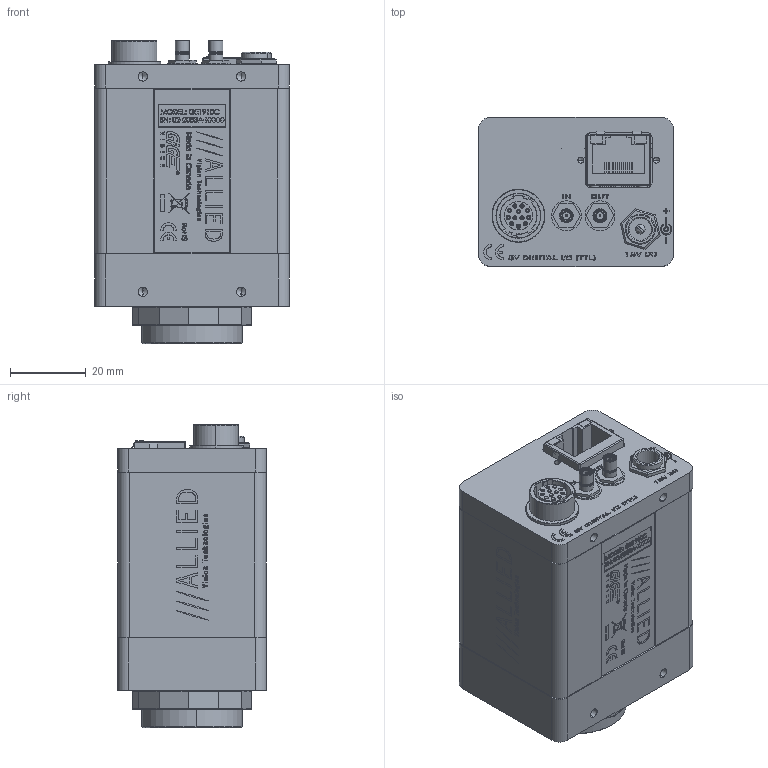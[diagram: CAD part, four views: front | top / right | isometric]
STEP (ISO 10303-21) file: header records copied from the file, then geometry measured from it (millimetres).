
FILE_DESCRIPTION (( 'STEP AP214' ), '1' );
FILE_NAME ('GE1910C.STEP', '2013-07-31T21:46:51', ( '' ), ( '' ), 'SwSTEP 2.0', 'SolidWorks 2013', '' );
FILE_SCHEMA (( 'AUTOMOTIVE_DESIGN' ));
Length unit declared in the file: millimetre
Products named in the file (37): 260014-SWITCHCRAFT PC712A NUT; 110085A-GE1050 FRONT PLATE; 140015-screw pan head phillips 4-40 x 0.1875; 110003AC-CV CMOUNT RING; 110036B GE COVER EXTRUDED SHORT WITH LOGO_Finished; 200031B-A GE INTERFACE PCB ASSY; 100137A - GE CAMERA BACK ASSEMBLY - for GE KODAK 1M2M; 260029 BELFUSE 0826-1C1T-23; 100051B - GE BACKPLATE ASSY; 740031B-GE SERIES LABEL; 260010-HIROSE HR10A-10R-12SB; 140007-screw socket head cap #4-40x2; 260010-HIROSE HR10A-10R-12SB NUT; 140008-washer spring lock #4; 260010-HIROSE HR10A-10R-12SB WASHER; 260014-SWITCHCRAFT PC712A; 740088A-GE1910C LABEL PRINT; GE1910C; 140034-SWITCHCRAFT P10149 WITH WIRE; 100157A-GE1910C FRONT ASSY; 140034-SWITCHCRAFT P10149; 110031A-B EC-CCD LOCKING RING; 270006-JUMPER WIRE 18MM LONG; 100097A-IR FILTER ASSEMBLY 0.75 INCH; 260009-AMPHENOL 903-406J-51R; 110054AB-IR FILTER SUPPORT; 140002-KEYSTONE 349; 440002-IR CUT FILTER 22MM DIA; 140000-AMPHENOL 903-10408-1; 220142-KODAK KAI-02150-CBA; 100000AA-CV SMB GROUNDING ASSEMBLY; KODAK KAI-02150 BODY; 270006-JUMPER WIRE MODIFIED; KODAK KAI-02150 WINDOW; 140001-AMPHENOL 903-10409-1; 110053AA-GE KODAK 2M CCD DUST SHIELD GASKET; 110033B-C GE BACK PLATE
Assembly tree (50 placements, depth 5):
  GE1910C
    140008-washer spring lock #4  x4
    140007-screw socket head cap #4-40x2  x4
    740031B-GE SERIES LABEL
    100137A - GE CAMERA BACK ASSEMBLY - for GE KODAK 1M2M
      140008-washer spring lock #4  x2
      200031B-A GE INTERFACE PCB ASSY
        260029 BELFUSE 0826-1C1T-23
      140015-screw pan head phillips 4-40 x 0.1875
      100051B - GE BACKPLATE ASSY
        260014-SWITCHCRAFT PC712A NUT
        110033B-C GE BACK PLATE
        100000AA-CV SMB GROUNDING ASSEMBLY  x2
          140001-AMPHENOL 903-10409-1
          270006-JUMPER WIRE MODIFIED
        140000-AMPHENOL 903-10408-1  x2
        140002-KEYSTONE 349  x4
        260009-AMPHENOL 903-406J-51R  x2
        140034-SWITCHCRAFT P10149 WITH WIRE
          270006-JUMPER WIRE 18MM LONG
          140034-SWITCHCRAFT P10149
        260014-SWITCHCRAFT PC712A
        260010-HIROSE HR10A-10R-12SB WASHER
        260010-HIROSE HR10A-10R-12SB NUT
        260010-HIROSE HR10A-10R-12SB
    110036B GE COVER EXTRUDED SHORT WITH LOGO_Finished
    100157A-GE1910C FRONT ASSY
      110003AC-CV CMOUNT RING
      110085A-GE1050 FRONT PLATE
      110053AA-GE KODAK 2M CCD DUST SHIELD GASKET
      220142-KODAK KAI-02150-CBA
        KODAK KAI-02150 WINDOW
        KODAK KAI-02150 BODY
      100097A-IR FILTER ASSEMBLY 0.75 INCH
        440002-IR CUT FILTER 22MM DIA
        110054AB-IR FILTER SUPPORT
      110031A-B EC-CCD LOCKING RING
    740088A-GE1910C LABEL PRINT
Bounding box: 51.56 x 39.37 x 80.32 mm (x, y, z)
Volume: 49439.3 mm3; surface area: 69688.1 mm2
Topology: 74 solids, 74 shells, 3973 faces, 9966 edges, 6501 vertices
Faces by surface type: plane 2070, bspline 910, cylinder 733, cone 260
Entity records: 187259 total; most frequent: CARTESIAN_POINT 59102, ORIENTED_EDGE 18786, DIRECTION 15035, EDGE_CURVE 9393, VERTEX_POINT 6159, VECTOR 6049, LINE 6049, AXIS2_PLACEMENT_3D 4493
